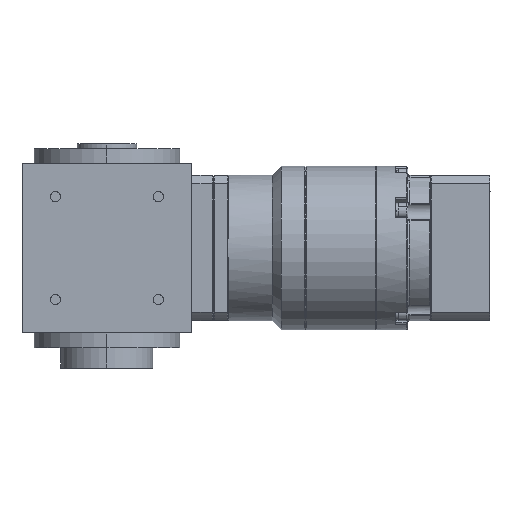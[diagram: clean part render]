
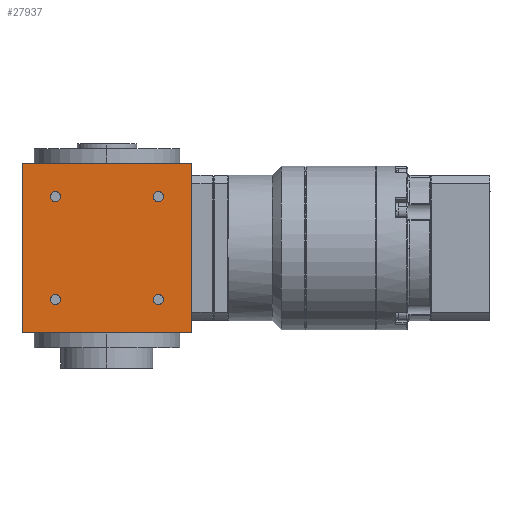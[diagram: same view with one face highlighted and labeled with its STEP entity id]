
A CAD part, left-side view. The second image highlights one B-rep face of the part: STEP entity #27937.
In plain terms, the highlighted planar face has unit normal (-1, 0, 0).
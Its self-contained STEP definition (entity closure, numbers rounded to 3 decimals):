
#730 = CARTESIAN_POINT ( 'NONE',  ( -35., 0., -35. ) ) ;
#1704 = ORIENTED_EDGE ( 'NONE', *, *, #17163, .F. ) ;
#2064 = DIRECTION ( 'NONE',  ( 0., -1., 0. ) ) ;
#2129 = ORIENTED_EDGE ( 'NONE', *, *, #5349, .T. ) ;
#2596 = EDGE_LOOP ( 'NONE', ( #14215, #21353 ) ) ;
#2856 = ORIENTED_EDGE ( 'NONE', *, *, #15518, .T. ) ;
#3139 = CARTESIAN_POINT ( 'NONE',  ( -35., -21.213, -21.213 ) ) ;
#3639 = CIRCLE ( 'NONE', #10874, 2.1 ) ;
#3734 = AXIS2_PLACEMENT_3D ( 'NONE', #13722, #14031, #31681 ) ;
#4018 = VECTOR ( 'NONE', #21049, 1000. ) ;
#4135 = CIRCLE ( 'NONE', #24816, 2.1 ) ;
#4506 = EDGE_LOOP ( 'NONE', ( #1704, #7192, #16107, #2856 ) ) ;
#4757 = FACE_BOUND ( 'NONE', #6820, .T. ) ;
#5004 = DIRECTION ( 'NONE',  ( 0., -1., 0. ) ) ;
#5221 = FACE_BOUND ( 'NONE', #15172, .T. ) ;
#5267 = VERTEX_POINT ( 'NONE', #24603 ) ;
#5349 = EDGE_CURVE ( 'NONE', #19015, #5414, #22277, .T. ) ;
#5414 = VERTEX_POINT ( 'NONE', #7589 ) ;
#6820 = EDGE_LOOP ( 'NONE', ( #17538, #2129 ) ) ;
#6944 = DIRECTION ( 'NONE',  ( 0., -1., 0. ) ) ;
#7076 = VERTEX_POINT ( 'NONE', #25848 ) ;
#7192 = ORIENTED_EDGE ( 'NONE', *, *, #9599, .F. ) ;
#7206 = AXIS2_PLACEMENT_3D ( 'NONE', #31950, #21907, #10110 ) ;
#7334 = ORIENTED_EDGE ( 'NONE', *, *, #9929, .T. ) ;
#7379 = DIRECTION ( 'NONE',  ( 1., 0., 0. ) ) ;
#7547 = AXIS2_PLACEMENT_3D ( 'NONE', #16221, #26094, #28352 ) ;
#7589 = CARTESIAN_POINT ( 'NONE',  ( -35., 19.113, 21.213 ) ) ;
#8075 = DIRECTION ( 'NONE',  ( 1., 0., 0. ) ) ;
#8144 = DIRECTION ( 'NONE',  ( 0., -1., 0. ) ) ;
#9599 = EDGE_CURVE ( 'NONE', #23748, #23036, #15992, .T. ) ;
#9697 = ORIENTED_EDGE ( 'NONE', *, *, #24924, .T. ) ;
#9929 = EDGE_CURVE ( 'NONE', #7076, #14193, #4135, .T. ) ;
#10110 = DIRECTION ( 'NONE',  ( 0., -1., 0. ) ) ;
#10453 = EDGE_CURVE ( 'NONE', #28280, #13569, #15563, .T. ) ;
#10793 = CARTESIAN_POINT ( 'NONE',  ( -35., 19.113, -21.213 ) ) ;
#10874 = AXIS2_PLACEMENT_3D ( 'NONE', #23193, #20765, #27887 ) ;
#11006 = EDGE_CURVE ( 'NONE', #14891, #5267, #22294, .T. ) ;
#11435 = LINE ( 'NONE', #13544, #17000 ) ;
#11955 = VECTOR ( 'NONE', #8144, 1000. ) ;
#11957 = DIRECTION ( 'NONE',  ( 1., 0., 0. ) ) ;
#11976 = CARTESIAN_POINT ( 'NONE',  ( -35., 35., -35. ) ) ;
#12139 = CIRCLE ( 'NONE', #16779, 2.1 ) ;
#12203 = CIRCLE ( 'NONE', #7547, 2.1 ) ;
#12319 = CARTESIAN_POINT ( 'NONE',  ( -35., 23.313, -21.213 ) ) ;
#13303 = CARTESIAN_POINT ( 'NONE',  ( -35., -35., -35. ) ) ;
#13496 = DIRECTION ( 'NONE',  ( 0., -1., 0. ) ) ;
#13544 = CARTESIAN_POINT ( 'NONE',  ( -35., 35., -35. ) ) ;
#13569 = VERTEX_POINT ( 'NONE', #10793 ) ;
#13722 = CARTESIAN_POINT ( 'NONE',  ( -35., -21.213, 21.213 ) ) ;
#14031 = DIRECTION ( 'NONE',  ( 1., 0., 0. ) ) ;
#14085 = DIRECTION ( 'NONE',  ( 1., 0., 0. ) ) ;
#14193 = VERTEX_POINT ( 'NONE', #16717 ) ;
#14215 = ORIENTED_EDGE ( 'NONE', *, *, #21691, .T. ) ;
#14242 = CARTESIAN_POINT ( 'NONE',  ( -35., 21.213, -21.213 ) ) ;
#14891 = VERTEX_POINT ( 'NONE', #26187 ) ;
#14922 = ORIENTED_EDGE ( 'NONE', *, *, #10453, .T. ) ;
#15172 = EDGE_LOOP ( 'NONE', ( #9697, #14922 ) ) ;
#15205 = CARTESIAN_POINT ( 'NONE',  ( -35., 21.213, 21.213 ) ) ;
#15518 = EDGE_CURVE ( 'NONE', #28693, #19534, #30966, .T. ) ;
#15563 = CIRCLE ( 'NONE', #19172, 2.1 ) ;
#15904 = CARTESIAN_POINT ( 'NONE',  ( -35., -35., -35. ) ) ;
#15992 = LINE ( 'NONE', #16311, #24789 ) ;
#16107 = ORIENTED_EDGE ( 'NONE', *, *, #18081, .F. ) ;
#16173 = CARTESIAN_POINT ( 'NONE',  ( -35., 35., 35. ) ) ;
#16221 = CARTESIAN_POINT ( 'NONE',  ( -35., 21.213, -21.213 ) ) ;
#16311 = CARTESIAN_POINT ( 'NONE',  ( -35., 0., 35. ) ) ;
#16717 = CARTESIAN_POINT ( 'NONE',  ( -35., -23.313, -21.213 ) ) ;
#16764 = CARTESIAN_POINT ( 'NONE',  ( -35., -35., 35. ) ) ;
#16779 = AXIS2_PLACEMENT_3D ( 'NONE', #29734, #11957, #27154 ) ;
#17000 = VECTOR ( 'NONE', #29044, 1000. ) ;
#17163 = EDGE_CURVE ( 'NONE', #23036, #19534, #28492, .T. ) ;
#17538 = ORIENTED_EDGE ( 'NONE', *, *, #28106, .T. ) ;
#18081 = EDGE_CURVE ( 'NONE', #28693, #23748, #11435, .T. ) ;
#18911 = DIRECTION ( 'NONE',  ( 0., -1., 0. ) ) ;
#19015 = VERTEX_POINT ( 'NONE', #25492 ) ;
#19172 = AXIS2_PLACEMENT_3D ( 'NONE', #14242, #14085, #6944 ) ;
#19534 = VERTEX_POINT ( 'NONE', #15904 ) ;
#19648 = FACE_BOUND ( 'NONE', #2596, .T. ) ;
#20256 = AXIS2_PLACEMENT_3D ( 'NONE', #29556, #7379, #2064 ) ;
#20765 = DIRECTION ( 'NONE',  ( 1., 0., 0. ) ) ;
#21049 = DIRECTION ( 'NONE',  ( 0., 0., -1. ) ) ;
#21353 = ORIENTED_EDGE ( 'NONE', *, *, #11006, .T. ) ;
#21691 = EDGE_CURVE ( 'NONE', #5267, #14891, #23880, .T. ) ;
#21907 = DIRECTION ( 'NONE',  ( -1., 0., 0. ) ) ;
#22277 = CIRCLE ( 'NONE', #26938, 2.1 ) ;
#22294 = CIRCLE ( 'NONE', #20256, 2.1 ) ;
#23036 = VERTEX_POINT ( 'NONE', #16764 ) ;
#23193 = CARTESIAN_POINT ( 'NONE',  ( -35., 21.213, 21.213 ) ) ;
#23748 = VERTEX_POINT ( 'NONE', #16173 ) ;
#23880 = CIRCLE ( 'NONE', #3734, 2.1 ) ;
#23907 = EDGE_CURVE ( 'NONE', #14193, #7076, #12139, .T. ) ;
#23938 = EDGE_LOOP ( 'NONE', ( #29822, #7334 ) ) ;
#24603 = CARTESIAN_POINT ( 'NONE',  ( -35., -23.313, 21.213 ) ) ;
#24789 = VECTOR ( 'NONE', #18911, 1000. ) ;
#24816 = AXIS2_PLACEMENT_3D ( 'NONE', #3139, #27892, #13496 ) ;
#24817 = FACE_OUTER_BOUND ( 'NONE', #4506, .T. ) ;
#24924 = EDGE_CURVE ( 'NONE', #13569, #28280, #12203, .T. ) ;
#25492 = CARTESIAN_POINT ( 'NONE',  ( -35., 23.313, 21.213 ) ) ;
#25848 = CARTESIAN_POINT ( 'NONE',  ( -35., -19.113, -21.213 ) ) ;
#26094 = DIRECTION ( 'NONE',  ( 1., 0., 0. ) ) ;
#26187 = CARTESIAN_POINT ( 'NONE',  ( -35., -19.113, 21.213 ) ) ;
#26938 = AXIS2_PLACEMENT_3D ( 'NONE', #15205, #8075, #5004 ) ;
#27154 = DIRECTION ( 'NONE',  ( 0., -1., 0. ) ) ;
#27887 = DIRECTION ( 'NONE',  ( 0., -1., 0. ) ) ;
#27892 = DIRECTION ( 'NONE',  ( 1., 0., 0. ) ) ;
#27937 = ADVANCED_FACE ( 'NONE', ( #4757, #19648, #29510, #5221, #24817 ), #29345, .T. ) ;
#28106 = EDGE_CURVE ( 'NONE', #5414, #19015, #3639, .T. ) ;
#28280 = VERTEX_POINT ( 'NONE', #12319 ) ;
#28352 = DIRECTION ( 'NONE',  ( 0., -1., 0. ) ) ;
#28492 = LINE ( 'NONE', #13303, #4018 ) ;
#28693 = VERTEX_POINT ( 'NONE', #11976 ) ;
#29044 = DIRECTION ( 'NONE',  ( 0., 0., 1. ) ) ;
#29345 = PLANE ( 'NONE',  #7206 ) ;
#29510 = FACE_BOUND ( 'NONE', #23938, .T. ) ;
#29556 = CARTESIAN_POINT ( 'NONE',  ( -35., -21.213, 21.213 ) ) ;
#29734 = CARTESIAN_POINT ( 'NONE',  ( -35., -21.213, -21.213 ) ) ;
#29822 = ORIENTED_EDGE ( 'NONE', *, *, #23907, .T. ) ;
#30966 = LINE ( 'NONE', #730, #11955 ) ;
#31681 = DIRECTION ( 'NONE',  ( 0., -1., 0. ) ) ;
#31950 = CARTESIAN_POINT ( 'NONE',  ( -35., 35., -35. ) ) ;
